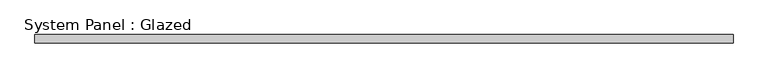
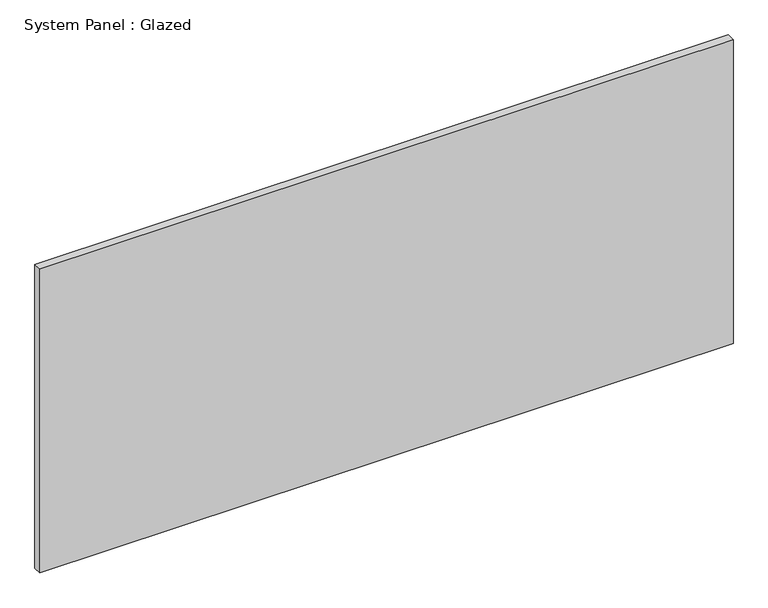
"""IFC4 building model written with IfcOpenShell, lengths in millimetres: plate geometry, System Panel : Glazed."""

import ifcopenshell
import ifcopenshell.guid

model = None  # the IFC model being written
_history = None  # IfcOwnerHistory: only IFC2X3 demands one
_inside = {}  # id of a spatial element -> (the spatial element, [elements in it])
_under = {}  # id of a project, library or spatial element -> (it, [spatial elements below it])
_declared = {}  # id of a project -> (the project, [libraries it declares])
_typed = {}  # id of a type object -> (the type object, [elements of that type])
_made_of = {}  # id of a material, layer set ... -> (it, [elements and type objects made of it])


def new_model(schema):
    """Start an empty IFC model of exactly this schema.

    Asked for "IFC4X3", IfcOpenShell would pick the latest addendum, in which some entities
    have other attributes; the version numbers below select the first issue.
    IFC2X3 requires an IfcOwnerHistory on every rooted entity: one is made here for all.
    """
    global model, _history
    if schema == "IFC4X3":
        model = ifcopenshell.file(schema_version=(4, 3, 0, 0))
    else:
        model = ifcopenshell.file(schema=schema)
    _inside.clear()
    _under.clear()
    _declared.clear()
    _typed.clear()
    _made_of.clear()
    _history = None
    if model.schema == "IFC2X3":
        org = make("IfcOrganization", Name="unknown")
        user = make(
            "IfcPersonAndOrganization",
            ThePerson=make("IfcPerson", FamilyName="unknown"),
            TheOrganization=org,
        )
        app = make(
            "IfcApplication",
            ApplicationDeveloper=org,
            Version="unknown",
            ApplicationFullName="unknown",
            ApplicationIdentifier="unknown",
        )
        _history = make(
            "IfcOwnerHistory",
            OwningUser=user,
            OwningApplication=app,
            ChangeAction="ADDED",
            CreationDate=0,
        )
    return model


def make(cls, **values):
    """One entity of the class cls with the attributes given. An attribute that is None is left unset."""
    return model.create_entity(
        cls, **{name: value for name, value in values.items() if value is not None}
    )


def rooted(cls, **values):
    """An entity with a GlobalId (a new one), such as an element, a storey or a relation."""
    return make(cls, GlobalId=ifcopenshell.guid.new(), OwnerHistory=_history, **values)


def si_unit(unit_type, name, prefix=None):
    """IfcSIUnit, for example si_unit("LENGTHUNIT", "METRE", prefix="MILLI")."""
    return make("IfcSIUnit", UnitType=unit_type, Prefix=prefix, Name=name)


def assignment(units):
    """IfcUnitAssignment: the units of a project."""
    return None if units is None else make("IfcUnitAssignment", Units=units)


def point(xyz):
    """IfcCartesianPoint."""
    return None if xyz is None else make("IfcCartesianPoint", Coordinates=xyz)


def direction(xyz):
    """IfcDirection."""
    return None if xyz is None else make("IfcDirection", DirectionRatios=xyz)


def frame(location, z_axis=None, x_axis=None):
    """IfcAxis2Placement3D, a coordinate frame: its origin and axes. An axis left out is left unset."""
    return make(
        "IfcAxis2Placement3D",
        Location=point(location),
        Axis=direction(z_axis),
        RefDirection=direction(x_axis),
    )


def origin():
    """The frame at (0, 0, 0) with its axes left unset."""
    return frame((0.0, 0.0, 0.0))


def origin_with_axes():
    """The frame at (0, 0, 0) with the z axis (0, 0, 1) and the x axis (1, 0, 0) written out."""
    return frame((0.0, 0.0, 0.0), z_axis=(0.0, 0.0, 1.0), x_axis=(1.0, 0.0, 0.0))


def place(relative_to, where):
    """IfcLocalPlacement: puts the frame where relative to a parent placement (None: the world)."""
    return make(
        "IfcLocalPlacement", PlacementRelTo=relative_to, RelativePlacement=where
    )


def context(
    kind, dimensions, precision=None, world=None, true_north=None, identifier=None
):
    """IfcGeometricRepresentationContext, for example the 3D "Model" context."""
    return make(
        "IfcGeometricRepresentationContext",
        ContextIdentifier=identifier,
        ContextType=kind,
        CoordinateSpaceDimension=dimensions,
        Precision=precision,
        WorldCoordinateSystem=world,
        TrueNorth=true_north,
    )


def project(units=None, contexts=None):
    """IfcProject with its units and contexts."""
    return rooted(
        "IfcProject",
        Name="project",
        RepresentationContexts=contexts,
        UnitsInContext=assignment(units),
    )


def spatial(cls, under=None, at=None, **own):
    """A site, building, storey or space (cls), placed at a placement, below another one or the project."""
    s = rooted(cls, ObjectPlacement=at, **own)
    if under is not None:
        _under.setdefault(under.id(), (under, []))[1].append(s)
    return s


def polyline(points):
    """IfcPolyline through the points."""
    return make("IfcPolyline", Points=[point(p) for p in points])


def outline(outer, holes=None, kind="AREA"):
    """IfcArbitraryClosedProfileDef: a profile drawn as a closed curve; with holes, ...WithVoids."""
    if holes is None:
        return make("IfcArbitraryClosedProfileDef", ProfileType=kind, OuterCurve=outer)
    return make(
        "IfcArbitraryProfileDefWithVoids",
        ProfileType=kind,
        OuterCurve=outer,
        InnerCurves=holes,
    )


def extrude(swept, where, along, depth):
    """IfcExtrudedAreaSolid: the profile swept, set in the frame where, extruded along a direction by depth."""
    return make(
        "IfcExtrudedAreaSolid",
        SweptArea=swept,
        Position=where,
        ExtrudedDirection=direction(along),
        Depth=depth,
    )


def shape(context_of_items, identifier, shape_type, items):
    """IfcShapeRepresentation: the items that make up one representation, for example the "Body"."""
    return make(
        "IfcShapeRepresentation",
        ContextOfItems=context_of_items,
        RepresentationIdentifier=identifier,
        RepresentationType=shape_type,
        Items=items,
    )


def source(mapping_origin, context_of_items, identifier, shape_type, items):
    """IfcRepresentationMap: a shape defined once, which mapped items show again and again."""
    return make(
        "IfcRepresentationMap",
        MappingOrigin=mapping_origin,
        MappedRepresentation=shape(context_of_items, identifier, shape_type, items),
    )


def transform(
    local_origin,
    x_axis=None,
    y_axis=None,
    z_axis=None,
    scale=None,
    scale2=None,
    scale3=None,
    uniform=True,
):
    """IfcCartesianTransformationOperator3D, or its non-uniform kind. x_axis, y_axis, z_axis: its Axis1, 2, 3."""
    if uniform:
        return make(
            "IfcCartesianTransformationOperator3D",
            Axis1=direction(x_axis),
            Axis2=direction(y_axis),
            LocalOrigin=point(local_origin),
            Scale=scale,
            Axis3=direction(z_axis),
        )
    return make(
        "IfcCartesianTransformationOperator3DnonUniform",
        Axis1=direction(x_axis),
        Axis2=direction(y_axis),
        LocalOrigin=point(local_origin),
        Scale=scale,
        Axis3=direction(z_axis),
        Scale2=scale2,
        Scale3=scale3,
    )


def mapped(mapping_source, mapping_target):
    """IfcMappedItem: shows the shape of a source again, moved by a transform."""
    return make(
        "IfcMappedItem", MappingSource=mapping_source, MappingTarget=mapping_target
    )


def made_of(thing, what):
    """Note that an element or type object is made of a material, layer set ...; save() writes the relation."""
    if what is not None:
        _made_of.setdefault(what.id(), (what, []))[1].append(thing)
    return thing


def element(
    cls,
    number,
    at=None,
    inside=None,
    cuts=None,
    type_object=None,
    material=None,
    context=None,
    identifier="Body",
    shape_type=None,
    held_by="IfcProductDefinitionShape",
    body=None,
    shapes=None,
    **own,
):
    """One element of the class cls, such as IfcWall. Its Tag is "e" and its number.

    at: its placement. inside: the storey or other place that contains it. cuts: it is an
    opening in that element (IfcRelVoidsElement). A single representation is given by context,
    identifier, shape_type and body (its items); several are given by shapes. held_by: the class
    of the entity that holds the representations. save() writes the other relations.
    """
    e = rooted(cls, Tag="e%d" % number, ObjectPlacement=at, **own)
    if body is not None:
        shapes = [shape(context, identifier, shape_type, body)]
    if shapes is not None:
        e.Representation = make(held_by, Representations=shapes)
    if inside is not None:
        _inside.setdefault(inside.id(), (inside, []))[1].append(e)
    if cuts is not None:
        rooted(
            "IfcRelVoidsElement", RelatingBuildingElement=cuts, RelatedOpeningElement=e
        )
    if type_object is not None:
        _typed.setdefault(type_object.id(), (type_object, []))[1].append(e)
    return made_of(e, material)


def aggregate(whole, parts):
    """IfcRelAggregates: a whole, such as a stair, and the parts it consists of."""
    return rooted("IfcRelAggregates", RelatingObject=whole, RelatedObjects=parts)


def save(model, path):
    """Write the relations noted so far, then the file.

    IfcRelAggregates (storeys below a building ...), IfcRelContainedInSpatialStructure (elements
    in a storey), IfcRelDefinesByType, IfcRelAssociatesMaterial and IfcRelDeclares: one each for
    every whole, place, type object, material and project.
    """
    for whole, parts in _under.values():
        aggregate(whole, parts)
    for where, things in _inside.values():
        rooted(
            "IfcRelContainedInSpatialStructure",
            RelatedElements=things,
            RelatingStructure=where,
        )
    for kind, things in _typed.values():
        rooted("IfcRelDefinesByType", RelatedObjects=things, RelatingType=kind)
    for what, things in _made_of.values():
        rooted("IfcRelAssociatesMaterial", RelatedObjects=things, RelatingMaterial=what)
    for by, libraries in _declared.values():
        rooted("IfcRelDeclares", RelatingContext=by, RelatedDefinitions=libraries)
    model.write(path)


def system_panel_glazed_aaae68ce(model_context):
    return source(origin(), model_context, "Body", "SweptSolid", [
        extrude(outline(polyline([(1047.75, 19.05), (-1047.75, 19.05), (-1047.75, 44.45), (1047.75, 44.45), (1047.75, 19.05)])), origin_with_axes(), (0.0, 0.0, 1.0), 971.55),
    ])


if __name__ == "__main__":
    model = new_model("IFC4")
    model_context = context("Model", 3, world=origin())
    ifc_project = project(units=[si_unit("LENGTHUNIT", "METRE", prefix="MILLI")], contexts=[model_context])
    site = spatial("IfcSite", under=ifc_project)
    building = spatial("IfcBuilding", under=site)
    placement = place(None, origin())
    system_panel_glazed_shape = system_panel_glazed_aaae68ce(model_context)
    element("IfcPlate", 1, ObjectType="System Panel : Glazed", at=placement, inside=building, context=model_context, shape_type="MappedRepresentation", body=[
        mapped(system_panel_glazed_shape, transform((0.0, 0.0, 0.0), x_axis=(1.0, 0.0, 0.0), y_axis=(0.0, 1.0, 0.0), z_axis=(0.0, 0.0, 1.0))),
    ])
    save(model, "model.ifc")
